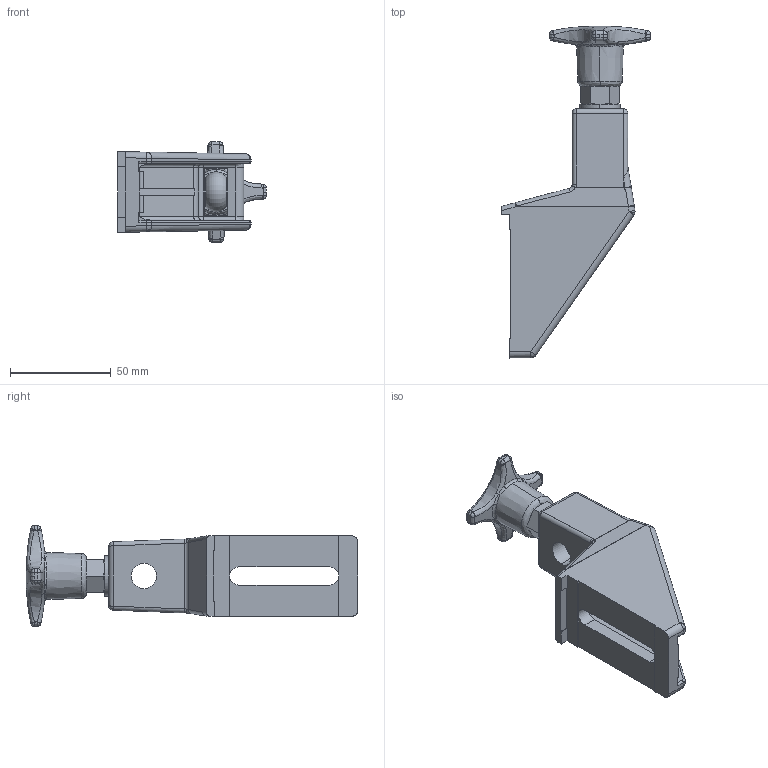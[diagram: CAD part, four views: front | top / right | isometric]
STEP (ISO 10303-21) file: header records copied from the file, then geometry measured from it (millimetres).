
FILE_DESCRIPTION (( 'STEP AP214' ), '1' );
FILE_NAME ('GH5 1PM.step', '2017-04-05T07:45:00', ( '' ), ( '' ), 'SwSTEP 2.0', 'SolidWorks 2015', '' );
FILE_SCHEMA (( 'AUTOMOTIVE_DESIGN' ));
Length unit declared in the file: millimetre
Products named in the file (1): GH5 1PM
Bounding box: 73.75 x 164.38 x 50 mm (x, y, z)
Volume: 94547.7 mm3; surface area: 34622.4 mm2
Topology: 1 solids, 1 shells, 293 faces, 729 edges, 430 vertices
Faces by surface type: bspline 132, cylinder 87, plane 65, torus 5, cone 4
Entity records: 16332 total; most frequent: CARTESIAN_POINT 10539, ORIENTED_EDGE 1444, DIRECTION 820, EDGE_CURVE 722, VERTEX_POINT 430, AXIS2_PLACEMENT_3D 305, EDGE_LOOP 304, ADVANCED_FACE 293
